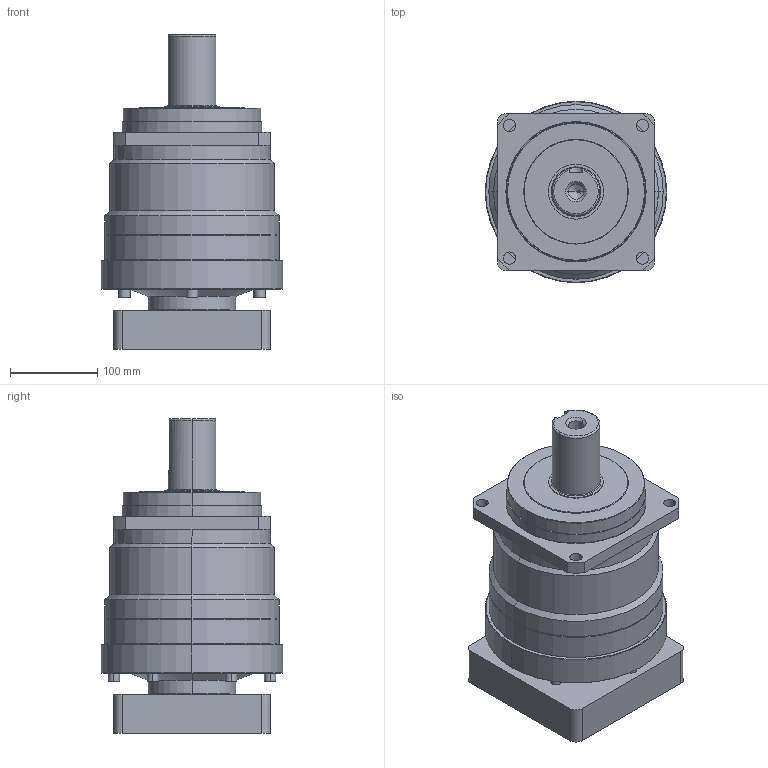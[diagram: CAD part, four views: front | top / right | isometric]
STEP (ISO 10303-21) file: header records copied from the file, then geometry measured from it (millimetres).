
FILE_DESCRIPTION (( 'STEP AP214' ), '1' );
FILE_NAME ('VRS180-L2-S2-P1 35-114.3-200-M12.STEP', '2023-09-01T05:32:21', ( '微软用户' ), ( '微软中国' ), 'SwSTEP 2.0', 'SolidWorks 2018', '' );
FILE_SCHEMA (( 'AUTOMOTIVE_DESIGN' ));
Length unit declared in the file: millimetre
Products named in the file (1): VRS180-L2-S2-P1 35-114.3-200-M12
Bounding box: 208 x 208 x 360.5 mm (x, y, z)
Volume: 7612495.1 mm3; surface area: 340445.3 mm2
Topology: 1 solids, 1 shells, 184 faces, 421 edges, 265 vertices
Faces by surface type: plane 83, cylinder 68, cone 26, torus 7
Entity records: 5311 total; most frequent: DIRECTION 957, CARTESIAN_POINT 944, ORIENTED_EDGE 838, EDGE_CURVE 419, AXIS2_PLACEMENT_3D 356, VERTEX_POINT 265, VECTOR 245, LINE 245
